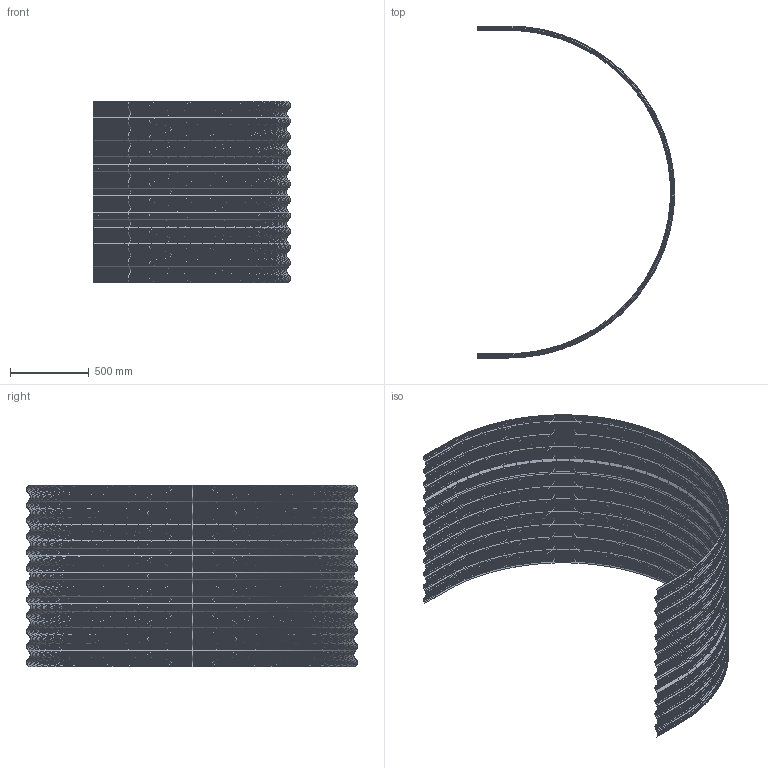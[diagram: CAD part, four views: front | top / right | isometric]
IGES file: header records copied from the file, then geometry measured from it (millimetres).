
Global section: file name: Filename.iges; native system: Open CASCADE 7.0; preprocessor: Open CASCADE IGES processor 7.0; author: gholl; date: 20220902.093220; units: millimetre
Bounding box: 1251.99 x 2103.99 x 1150.38 mm (x, y, z)
Surface area: 9682248 mm2 (no closed solid volume)
Topology: 0 solids, 0 shells, 18492 faces, 75284 edges, 75284 vertices
Faces by surface type: plane 18470, revolution 22
